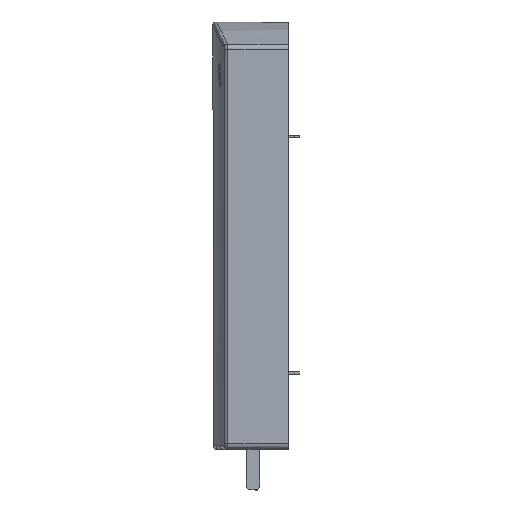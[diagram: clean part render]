
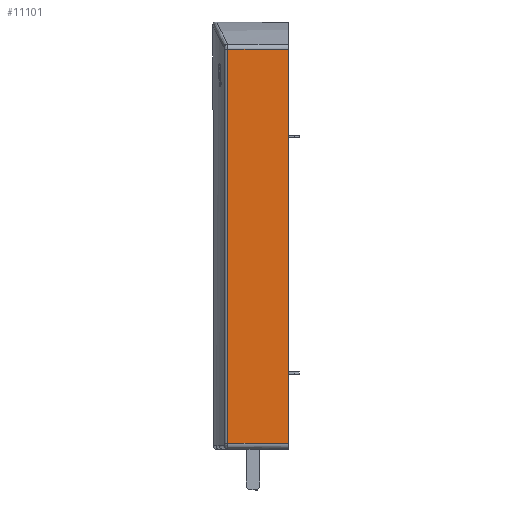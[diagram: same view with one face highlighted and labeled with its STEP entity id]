
A CAD part, top view. The second image highlights one B-rep face of the part: STEP entity #11101.
In plain terms, the highlighted planar face has unit normal (0, 0, 1).
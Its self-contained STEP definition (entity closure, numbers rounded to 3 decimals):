
#340 = CARTESIAN_POINT ( 'NONE',  ( 0., 207.096, 22.754 ) ) ;
#344 = LINE ( 'NONE', #340, #9413 ) ;
#349 = DIRECTION ( 'NONE',  ( 0., 1., 0. ) ) ;
#1936 = CARTESIAN_POINT ( 'NONE',  ( -41.001, 207.096, 22.754 ) ) ;
#1937 = FACE_OUTER_BOUND ( 'NONE', #10136, .T. ) ;
#1945 = PLANE ( 'NONE',  #9311 ) ;
#1948 = DIRECTION ( 'NONE',  ( 0., 0., 1. ) ) ;
#1949 = DIRECTION ( 'NONE',  ( -1., 0., 0. ) ) ;
#6160 = CARTESIAN_POINT ( 'NONE',  ( 0., -6.062, 22.754 ) ) ;
#6200 = CARTESIAN_POINT ( 'NONE',  ( -32.709, -6.062, 22.754 ) ) ;
#6203 = CARTESIAN_POINT ( 'NONE',  ( -32.709, 207.096, 22.754 ) ) ;
#8362 = LINE ( 'NONE', #8365, #9345 ) ;
#8365 = CARTESIAN_POINT ( 'NONE',  ( -41.001, -6.062, 22.754 ) ) ;
#8366 = DIRECTION ( 'NONE',  ( 1., 0., 0. ) ) ;
#8368 = LINE ( 'NONE', #8377, #9344 ) ;
#8377 = CARTESIAN_POINT ( 'NONE',  ( -41.001, 207.096, 22.754 ) ) ;
#8378 = DIRECTION ( 'NONE',  ( 1., 0., 0. ) ) ;
#8379 = LINE ( 'NONE', #8381, #9346 ) ;
#8381 = CARTESIAN_POINT ( 'NONE',  ( -32.709, 207.096, 22.754 ) ) ;
#8382 = DIRECTION ( 'NONE',  ( 0., 1., 0. ) ) ;
#8607 = CARTESIAN_POINT ( 'NONE',  ( 0., 207.096, 22.754 ) ) ;
#9118 = EDGE_CURVE ( 'NONE', #13069, #11340, #344, .T. ) ;
#9311 = AXIS2_PLACEMENT_3D ( 'NONE', #1936, #1948, #1949 ) ;
#9344 = VECTOR ( 'NONE', #8378, 1000. ) ;
#9345 = VECTOR ( 'NONE', #8366, 1000. ) ;
#9346 = VECTOR ( 'NONE', #8382, 1000. ) ;
#9413 = VECTOR ( 'NONE', #349, 1000. ) ;
#10136 = EDGE_LOOP ( 'NONE', ( #12269, #12270, #12271, #12272 ) ) ;
#11101 = ADVANCED_FACE ( 'NONE', ( #1937 ), #1945, .T. ) ;
#11138 = EDGE_CURVE ( 'NONE', #13112, #13069, #8362, .T. ) ;
#11140 = EDGE_CURVE ( 'NONE', #13115, #11340, #8368, .T. ) ;
#11141 = EDGE_CURVE ( 'NONE', #13112, #13115, #8379, .T. ) ;
#11340 = VERTEX_POINT ( 'NONE', #8607 ) ;
#12269 = ORIENTED_EDGE ( 'NONE', *, *, #11138, .T. ) ;
#12270 = ORIENTED_EDGE ( 'NONE', *, *, #9118, .T. ) ;
#12271 = ORIENTED_EDGE ( 'NONE', *, *, #11140, .F. ) ;
#12272 = ORIENTED_EDGE ( 'NONE', *, *, #11141, .F. ) ;
#13069 = VERTEX_POINT ( 'NONE', #6160 ) ;
#13112 = VERTEX_POINT ( 'NONE', #6200 ) ;
#13115 = VERTEX_POINT ( 'NONE', #6203 ) ;
